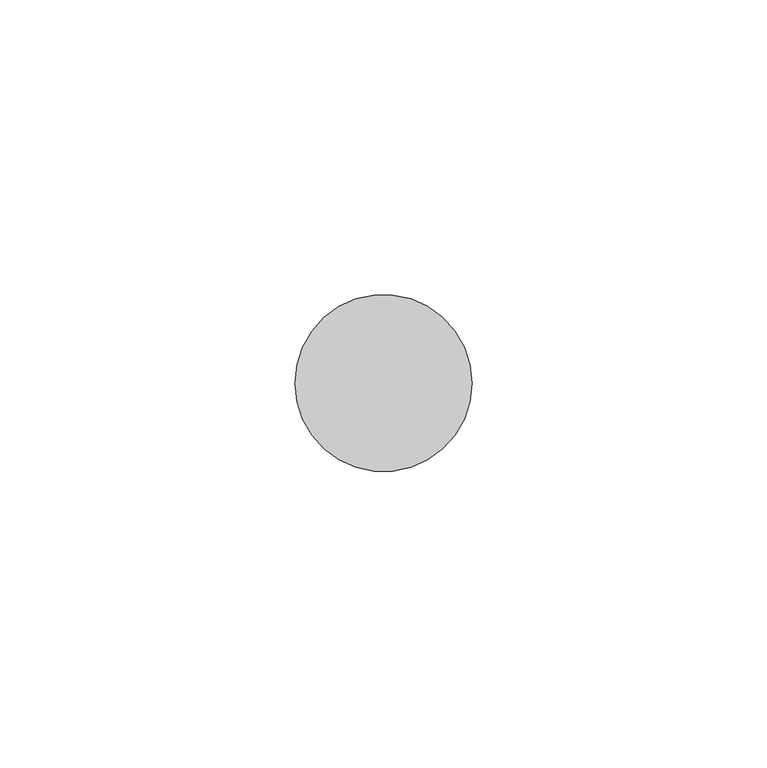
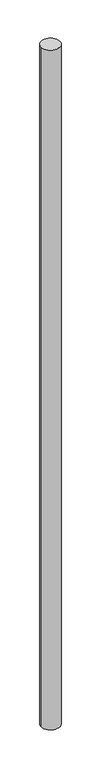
"""IFC4 building model written with IfcOpenShell, lengths in millimetres: proxy geometry, 玄関手摺子5 : 玄関手摺子."""

from ifc_helpers import new_model, si_unit, point, frame, frame_2d, origin, place, context, project, spatial, circle_curve, trimmed, segment, composite_curve, outline, extrude, source, transform, mapped, element, save


def generic_models_38c1e6e6(model_context):
    return source(origin(), model_context, "Body", "SweptSolid", [
        extrude(outline(composite_curve([segment(trimmed(circle_curve(frame_2d((5486.0811431, -8207.0139126)), 15.0), [point((5471.0811431, -8207.0139126))], [point((5501.0811431, -8207.0139126))], False, "CARTESIAN"), True, "CONTINUOUS"), segment(trimmed(circle_curve(frame_2d((5486.0811431, -8207.0139126)), 15.0), [point((5501.0811431, -8207.0139126))], [point((5471.0811431, -8207.0139126))], False, "CARTESIAN"), True, "CONTINUOUS")], self_intersect=False)), frame((0.0, 0.0, 640.0), z_axis=(0.0, 0.0, 1.0), x_axis=(1.0, 0.0, 0.0)), (0.0, 0.0, 1.0), 1160.0),
    ])


if __name__ == "__main__":
    model = new_model("IFC4")
    model_context = context("Model", 3, world=origin())
    ifc_project = project(units=[si_unit("LENGTHUNIT", "METRE", prefix="MILLI")], contexts=[model_context])
    site = spatial("IfcSite", under=ifc_project)
    building = spatial("IfcBuilding", under=site)
    placement = place(None, origin())
    generic_models_shape = generic_models_38c1e6e6(model_context)
    element("IfcBuildingElementProxy", 1, Name="玄関手摺子5 : 玄関手摺子", ObjectType="玄関手摺子5 : 玄関手摺子", at=placement, inside=building, context=model_context, shape_type="MappedRepresentation", body=[
        mapped(generic_models_shape, transform((0.0, 0.0, 0.0), x_axis=(1.0, 0.0, 0.0), y_axis=(0.0, 1.0, 0.0), z_axis=(0.0, 0.0, 1.0))),
    ])
    save(model, "model.ifc")
